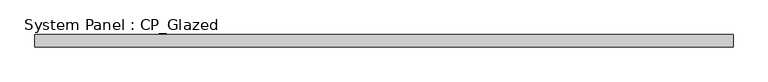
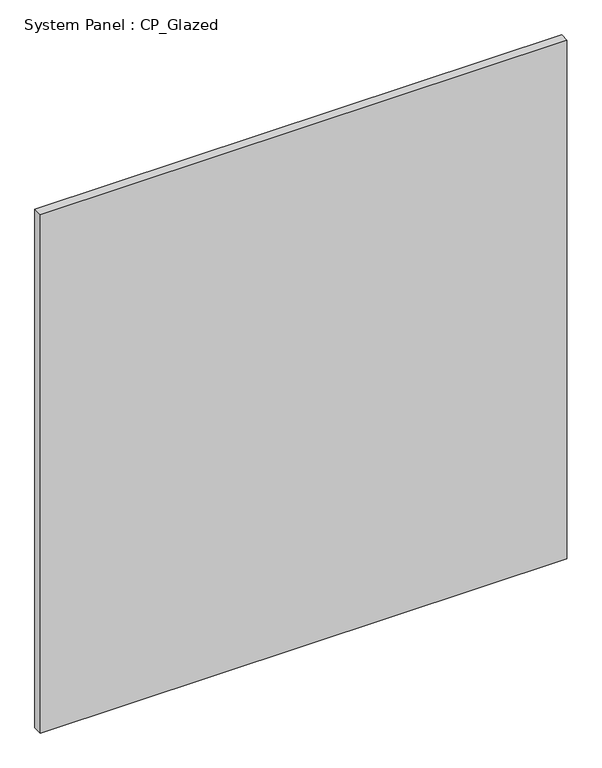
"""IFC4 building model written with IfcOpenShell, lengths in millimetres: plate geometry, System Panel : CP_Glazed."""

from ifc_helpers import new_model, si_unit, origin, origin_with_axes, place, context, project, spatial, polyline, outline, extrude, source, transform, mapped, element, save


def system_panel_cp_glazed_80408918(model_context):
    return source(origin(), model_context, "Body", "SweptSolid", [
        extrude(outline(polyline([(710.8264706, -44.45), (-710.8264706, -44.45), (-710.8264706, -19.05), (710.8264706, -19.05), (710.8264706, -44.45)])), origin_with_axes(), (0.0, 0.0, 1.0), 1479.55),
    ])


if __name__ == "__main__":
    model = new_model("IFC4")
    model_context = context("Model", 3, world=origin())
    ifc_project = project(units=[si_unit("LENGTHUNIT", "METRE", prefix="MILLI")], contexts=[model_context])
    site = spatial("IfcSite", under=ifc_project)
    building = spatial("IfcBuilding", under=site)
    placement = place(None, origin())
    system_panel_cp_glazed_shape = system_panel_cp_glazed_80408918(model_context)
    element("IfcPlate", 1, ObjectType="System Panel : CP_Glazed", at=placement, inside=building, context=model_context, shape_type="MappedRepresentation", body=[
        mapped(system_panel_cp_glazed_shape, transform((0.0, 0.0, 0.0), x_axis=(1.0, 0.0, 0.0), y_axis=(0.0, 1.0, 0.0), z_axis=(0.0, 0.0, 1.0))),
    ])
    save(model, "model.ifc")
